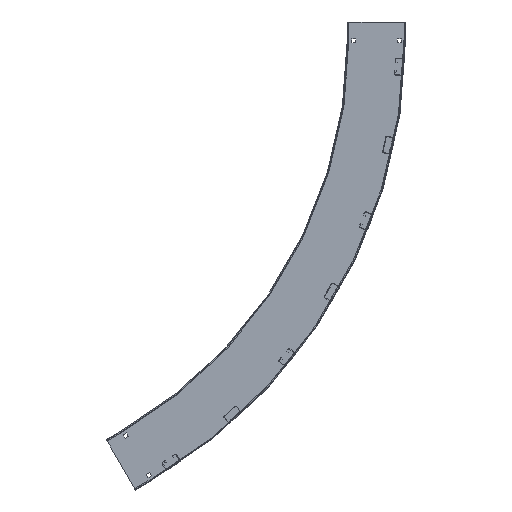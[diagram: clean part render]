
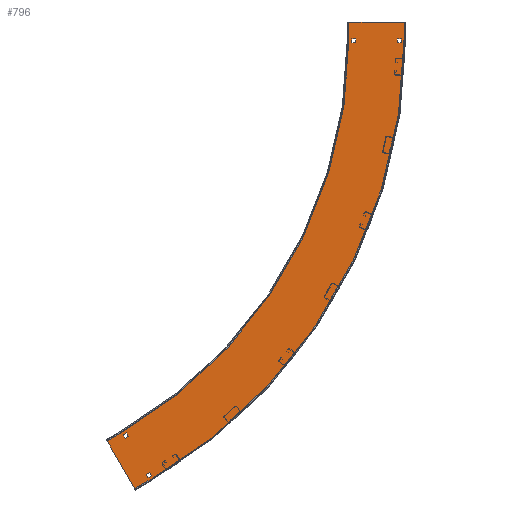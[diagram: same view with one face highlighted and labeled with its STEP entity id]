
A CAD part, left-side view. The second image highlights one B-rep face of the part: STEP entity #796.
In plain terms, the highlighted planar face has unit normal (-1, 0, 0).
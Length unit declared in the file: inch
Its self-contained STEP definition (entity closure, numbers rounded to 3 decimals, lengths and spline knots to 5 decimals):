
#1=DIRECTION('',(0.,-0.5,-0.866));
#2=VECTOR('',#1,5.838);
#3=CARTESIAN_POINT('',(0.,25.48446,47.64037));
#4=LINE('',#3,#2);
#5=DIRECTION('',(0.,1.,0.));
#6=VECTOR('',#5,5.838);
#7=CARTESIAN_POINT('',(0.,48.162,-1.75));
#8=LINE('',#7,#6);
#9=DIRECTION('',(0.,0.,-1.));
#10=VECTOR('',#9,0.41);
#11=CARTESIAN_POINT('',(0.,53.7035,0.455));
#12=LINE('',#11,#10);
#13=DIRECTION('',(0.,-1.,0.));
#14=VECTOR('',#13,0.41);
#15=CARTESIAN_POINT('',(0.,53.7035,0.045));
#16=LINE('',#15,#14);
#17=DIRECTION('',(0.,0.,1.));
#18=VECTOR('',#17,0.41);
#19=CARTESIAN_POINT('',(0.,53.2935,0.045));
#20=LINE('',#19,#18);
#21=DIRECTION('',(0.,1.,0.));
#22=VECTOR('',#21,0.41);
#23=CARTESIAN_POINT('',(0.,53.2935,0.455));
#24=LINE('',#23,#22);
#25=DIRECTION('',(0.,1.,0.));
#26=VECTOR('',#25,0.41);
#27=CARTESIAN_POINT('',(0.,48.4585,0.455));
#28=LINE('',#27,#26);
#29=DIRECTION('',(0.,0.,-1.));
#30=VECTOR('',#29,0.41);
#31=CARTESIAN_POINT('',(0.,48.8685,0.455));
#32=LINE('',#31,#30);
#33=DIRECTION('',(0.,-1.,0.));
#34=VECTOR('',#33,0.41);
#35=CARTESIAN_POINT('',(0.,48.8685,0.045));
#36=LINE('',#35,#34);
#37=DIRECTION('',(0.,0.,1.));
#38=VECTOR('',#37,0.41);
#39=CARTESIAN_POINT('',(0.,48.4585,0.045));
#40=LINE('',#39,#38);
#41=DIRECTION('',(0.,-0.5,-0.866));
#42=VECTOR('',#41,0.41);
#43=CARTESIAN_POINT('',(0.,24.82798,42.09332));
#44=LINE('',#43,#42);
#45=DIRECTION('',(0.,-0.866,0.5));
#46=VECTOR('',#45,0.41);
#47=CARTESIAN_POINT('',(0.,24.62298,41.73825));
#48=LINE('',#47,#46);
#49=DIRECTION('',(0.,0.5,0.866));
#50=VECTOR('',#49,0.41);
#51=CARTESIAN_POINT('',(0.,24.26791,41.94325));
#52=LINE('',#51,#50);
#53=DIRECTION('',(0.,0.866,-0.5));
#54=VECTOR('',#53,0.41);
#55=CARTESIAN_POINT('',(0.,24.47291,42.29832));
#56=LINE('',#55,#54);
#57=DIRECTION('',(0.,0.5,0.866));
#58=VECTOR('',#57,0.41);
#59=CARTESIAN_POINT('',(0.,26.68544,46.13054));
#60=LINE('',#59,#58);
#61=DIRECTION('',(0.,0.866,-0.5));
#62=VECTOR('',#61,0.41);
#63=CARTESIAN_POINT('',(0.,26.89044,46.48561));
#64=LINE('',#63,#62);
#65=DIRECTION('',(0.,-0.5,-0.866));
#66=VECTOR('',#65,0.41);
#67=CARTESIAN_POINT('',(0.,27.24551,46.28061));
#68=LINE('',#67,#66);
#69=DIRECTION('',(0.,-0.866,0.5));
#70=VECTOR('',#69,0.41);
#71=CARTESIAN_POINT('',(0.,27.04051,45.92554));
#72=LINE('',#71,#70);
#73=DIRECTION('',(0.,0.,1.));
#74=VECTOR('',#73,1.75);
#75=CARTESIAN_POINT('',(0.,54.,-1.75));
#76=LINE('',#75,#74);
#114=DIRECTION('',(0.,0.,-1.));
#115=VECTOR('',#114,1.75);
#116=CARTESIAN_POINT('',(0.,48.162,0.));
#117=LINE('',#116,#115);
#123=CARTESIAN_POINT('',(0.,0.,0.));
#124=DIRECTION('',(-1.,0.,0.));
#125=DIRECTION('',(0.,0.5,0.866));
#126=AXIS2_PLACEMENT_3D('',#123,#124,#125);
#128=DIRECTION('',(0.,0.866,-0.5));
#129=VECTOR('',#128,1.75);
#130=CARTESIAN_POINT('',(0.,22.56546,42.58452));
#131=LINE('',#130,#129);
#169=DIRECTION('',(0.,-0.866,0.5));
#170=VECTOR('',#169,1.75);
#171=CARTESIAN_POINT('',(0.,27.,46.76537));
#172=LINE('',#171,#170);
#178=CARTESIAN_POINT('',(0.,0.,0.));
#179=DIRECTION('',(1.,0.,0.));
#180=DIRECTION('',(0.,1.,0.));
#181=AXIS2_PLACEMENT_3D('',#178,#179,#180);
#573=CARTESIAN_POINT('',(0.,22.56546,42.58452));
#575=VERTEX_POINT('',#573);
#579=CARTESIAN_POINT('',(0.,24.081,41.70952));
#581=VERTEX_POINT('',#579);
#585=CARTESIAN_POINT('',(0.,48.162,0.));
#587=VERTEX_POINT('',#585);
#591=CARTESIAN_POINT('',(0.,48.162,-1.75));
#593=VERTEX_POINT('',#591);
#621=CARTESIAN_POINT('',(0.,54.,-1.75));
#622=VERTEX_POINT('',#621);
#623=CARTESIAN_POINT('',(0.,25.48446,47.64037));
#624=VERTEX_POINT('',#623);
#629=CARTESIAN_POINT('',(0.,54.,0.));
#631=VERTEX_POINT('',#629);
#635=CARTESIAN_POINT('',(0.,27.,46.76537));
#637=VERTEX_POINT('',#635);
#669=CARTESIAN_POINT('',(0.,53.7035,0.455));
#670=CARTESIAN_POINT('',(0.,53.7035,0.045));
#671=VERTEX_POINT('',#669);
#672=VERTEX_POINT('',#670);
#673=CARTESIAN_POINT('',(0.,53.2935,0.045));
#674=VERTEX_POINT('',#673);
#675=CARTESIAN_POINT('',(0.,53.2935,0.455));
#676=VERTEX_POINT('',#675);
#677=CARTESIAN_POINT('',(0.,48.4585,0.455));
#678=CARTESIAN_POINT('',(0.,48.8685,0.455));
#679=VERTEX_POINT('',#677);
#680=VERTEX_POINT('',#678);
#681=CARTESIAN_POINT('',(0.,48.8685,0.045));
#682=VERTEX_POINT('',#681);
#683=CARTESIAN_POINT('',(0.,48.4585,0.045));
#684=VERTEX_POINT('',#683);
#701=CARTESIAN_POINT('',(0.,24.82798,42.09332));
#702=CARTESIAN_POINT('',(0.,24.62298,41.73825));
#703=VERTEX_POINT('',#701);
#704=VERTEX_POINT('',#702);
#705=CARTESIAN_POINT('',(0.,24.26791,41.94325));
#706=VERTEX_POINT('',#705);
#707=CARTESIAN_POINT('',(0.,24.47291,42.29832));
#708=VERTEX_POINT('',#707);
#709=CARTESIAN_POINT('',(0.,26.68544,46.13054));
#710=CARTESIAN_POINT('',(0.,26.89044,46.48561));
#711=VERTEX_POINT('',#709);
#712=VERTEX_POINT('',#710);
#713=CARTESIAN_POINT('',(0.,27.24551,46.28061));
#714=VERTEX_POINT('',#713);
#715=CARTESIAN_POINT('',(0.,27.04051,45.92554));
#716=VERTEX_POINT('',#715);
#733=CARTESIAN_POINT('',(0.,0.,0.));
#734=DIRECTION('',(1.,0.,0.));
#735=DIRECTION('',(0.,0.,-1.));
#736=AXIS2_PLACEMENT_3D('',#733,#734,#735);
#737=PLANE('',#736);
#739=ORIENTED_EDGE('',*,*,#738,.T.);
#741=ORIENTED_EDGE('',*,*,#740,.T.);
#743=ORIENTED_EDGE('',*,*,#742,.T.);
#745=ORIENTED_EDGE('',*,*,#744,.T.);
#747=ORIENTED_EDGE('',*,*,#746,.T.);
#749=ORIENTED_EDGE('',*,*,#748,.T.);
#751=ORIENTED_EDGE('',*,*,#750,.T.);
#753=ORIENTED_EDGE('',*,*,#752,.T.);
#754=EDGE_LOOP('',(#739,#741,#743,#745,#747,#749,#751,#753));
#755=FACE_OUTER_BOUND('',#754,.F.);
#757=ORIENTED_EDGE('',*,*,#756,.T.);
#759=ORIENTED_EDGE('',*,*,#758,.T.);
#761=ORIENTED_EDGE('',*,*,#760,.T.);
#763=ORIENTED_EDGE('',*,*,#762,.T.);
#764=EDGE_LOOP('',(#757,#759,#761,#763));
#765=FACE_BOUND('',#764,.F.);
#767=ORIENTED_EDGE('',*,*,#766,.T.);
#769=ORIENTED_EDGE('',*,*,#768,.T.);
#771=ORIENTED_EDGE('',*,*,#770,.T.);
#773=ORIENTED_EDGE('',*,*,#772,.T.);
#774=EDGE_LOOP('',(#767,#769,#771,#773));
#775=FACE_BOUND('',#774,.F.);
#777=ORIENTED_EDGE('',*,*,#776,.T.);
#779=ORIENTED_EDGE('',*,*,#778,.T.);
#781=ORIENTED_EDGE('',*,*,#780,.T.);
#783=ORIENTED_EDGE('',*,*,#782,.T.);
#784=EDGE_LOOP('',(#777,#779,#781,#783));
#785=FACE_BOUND('',#784,.F.);
#787=ORIENTED_EDGE('',*,*,#786,.T.);
#789=ORIENTED_EDGE('',*,*,#788,.T.);
#791=ORIENTED_EDGE('',*,*,#790,.T.);
#793=ORIENTED_EDGE('',*,*,#792,.T.);
#794=EDGE_LOOP('',(#787,#789,#791,#793));
#795=FACE_BOUND('',#794,.F.);
#796=ADVANCED_FACE('',(#755,#765,#775,#785,#795),#737,.F.);
#127=CIRCLE('',#126,48.162);
#182=CIRCLE('',#181,54.);
#738=EDGE_CURVE('',#622,#631,#76,.T.);
#740=EDGE_CURVE('',#631,#637,#182,.T.);
#742=EDGE_CURVE('',#637,#624,#172,.T.);
#744=EDGE_CURVE('',#624,#575,#4,.T.);
#746=EDGE_CURVE('',#575,#581,#131,.T.);
#748=EDGE_CURVE('',#581,#587,#127,.T.);
#750=EDGE_CURVE('',#587,#593,#117,.T.);
#752=EDGE_CURVE('',#593,#622,#8,.T.);
#756=EDGE_CURVE('',#671,#672,#12,.T.);
#758=EDGE_CURVE('',#672,#674,#16,.T.);
#760=EDGE_CURVE('',#674,#676,#20,.T.);
#762=EDGE_CURVE('',#676,#671,#24,.T.);
#766=EDGE_CURVE('',#679,#680,#28,.T.);
#768=EDGE_CURVE('',#680,#682,#32,.T.);
#770=EDGE_CURVE('',#682,#684,#36,.T.);
#772=EDGE_CURVE('',#684,#679,#40,.T.);
#776=EDGE_CURVE('',#703,#704,#44,.T.);
#778=EDGE_CURVE('',#704,#706,#48,.T.);
#780=EDGE_CURVE('',#706,#708,#52,.T.);
#782=EDGE_CURVE('',#708,#703,#56,.T.);
#786=EDGE_CURVE('',#711,#712,#60,.T.);
#788=EDGE_CURVE('',#712,#714,#64,.T.);
#790=EDGE_CURVE('',#714,#716,#68,.T.);
#792=EDGE_CURVE('',#716,#711,#72,.T.);
